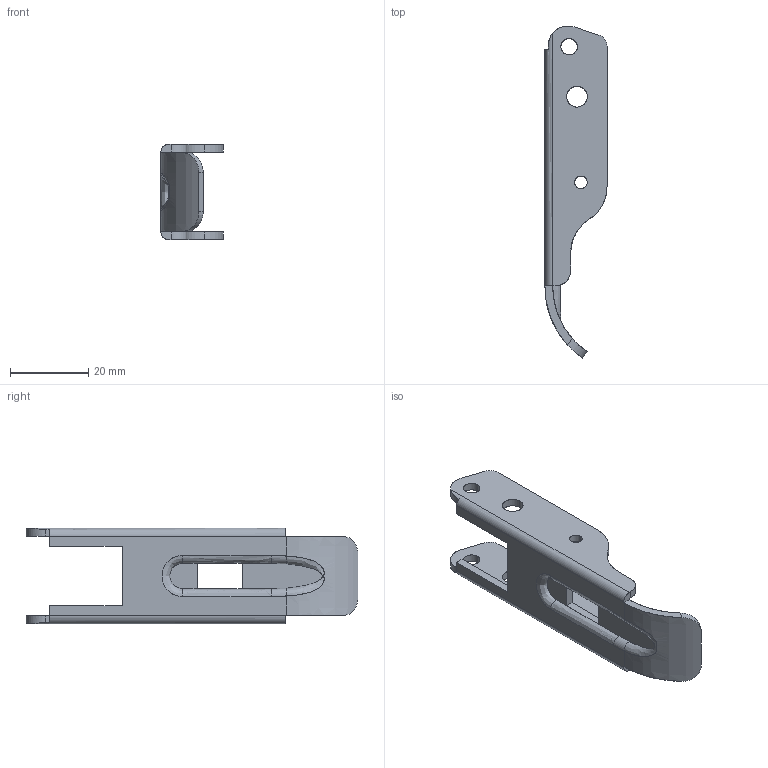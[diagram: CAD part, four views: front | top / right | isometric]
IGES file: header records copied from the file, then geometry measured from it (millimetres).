
Start section: SolidWorks IGES FILE using analytic representation for surfaces
Global section: file name: C:\Documents and Settings\lecoutey\Bureau\GR 78 E\78.010.10.IGS; native system: SolidWorks 2004 by SolidWorks Corporation; preprocessor: Version 5.3; author: lecoutey; date: 050404.175806; units: millimetre
Bounding box: 15.9 x 84.96 x 24.4 mm (x, y, z)
Surface area: 6759.2 mm2 (no closed solid volume)
Topology: 0 solids, 0 shells, 72 faces, 1203 edges, 1203 vertices
Faces by surface type: bspline 40, revolution 32
